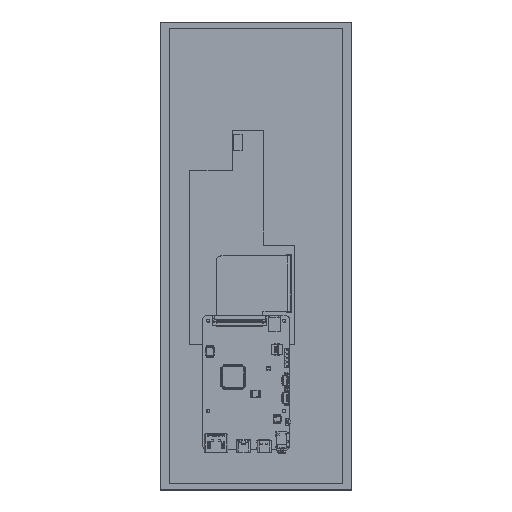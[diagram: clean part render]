
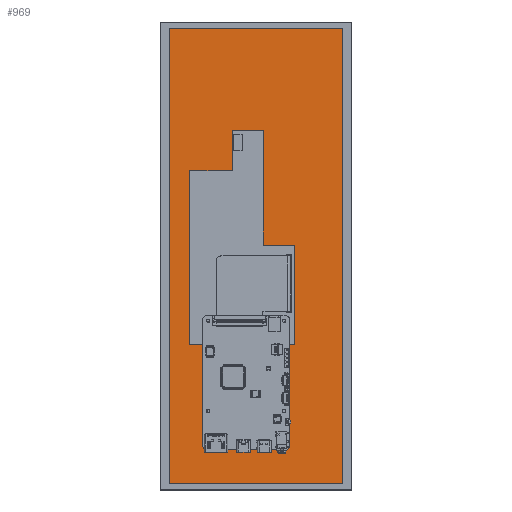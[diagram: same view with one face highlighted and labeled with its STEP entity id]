
A CAD part, top view. The second image highlights one B-rep face of the part: STEP entity #969.
In plain terms, the highlighted planar face has unit normal (0, 0, 1).
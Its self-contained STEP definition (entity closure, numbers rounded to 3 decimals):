
#165=DIRECTION('',(-1.,0.,0.));
#166=VECTOR('',#165,20.);
#167=CARTESIAN_POINT('',(24.825,7.,3.));
#168=LINE('',#167,#166);
#172=DIRECTION('',(0.,1.,0.));
#173=VECTOR('',#172,74.);
#174=CARTESIAN_POINT('',(4.825,7.,3.));
#175=LINE('',#174,#173);
#179=DIRECTION('',(-1.,0.,0.));
#180=VECTOR('',#179,20.);
#181=CARTESIAN_POINT('',(4.825,81.,3.));
#182=LINE('',#181,#180);
#186=DIRECTION('',(0.,-1.,0.));
#187=VECTOR('',#186,26.);
#188=CARTESIAN_POINT('',(-15.175,81.,3.));
#189=LINE('',#188,#187);
#193=DIRECTION('',(-1.,0.,0.));
#194=VECTOR('',#193,27.5);
#195=CARTESIAN_POINT('',(-15.175,55.,3.));
#196=LINE('',#195,#194);
#200=DIRECTION('',(0.,-1.,0.));
#201=VECTOR('',#200,112.);
#202=CARTESIAN_POINT('',(-42.675,55.,3.));
#203=LINE('',#202,#201);
#207=DIRECTION('',(1.,0.,0.));
#208=VECTOR('',#207,67.5);
#209=CARTESIAN_POINT('',(-42.675,-57.,3.));
#210=LINE('',#209,#208);
#214=DIRECTION('',(0.,1.,0.));
#215=VECTOR('',#214,64.);
#216=CARTESIAN_POINT('',(24.825,-57.,3.));
#217=LINE('',#216,#215);
#221=DIRECTION('',(0.,-1.,0.));
#222=VECTOR('',#221,293.2);
#223=CARTESIAN_POINT('',(55.675,146.6,3.));
#224=LINE('',#223,#222);
#228=DIRECTION('',(-1.,0.,0.));
#229=VECTOR('',#228,111.35);
#230=CARTESIAN_POINT('',(55.675,-146.6,3.));
#231=LINE('',#230,#229);
#235=DIRECTION('',(0.,1.,0.));
#236=VECTOR('',#235,293.2);
#237=CARTESIAN_POINT('',(-55.675,-146.6,3.));
#238=LINE('',#237,#236);
#242=DIRECTION('',(1.,0.,0.));
#243=VECTOR('',#242,111.35);
#244=CARTESIAN_POINT('',(-55.675,146.6,3.));
#245=LINE('',#244,#243);
#730=CARTESIAN_POINT('',(24.825,7.,3.));
#731=CARTESIAN_POINT('',(4.825,7.,3.));
#732=VERTEX_POINT('',#730);
#733=VERTEX_POINT('',#731);
#734=CARTESIAN_POINT('',(4.825,81.,3.));
#735=VERTEX_POINT('',#734);
#736=CARTESIAN_POINT('',(-15.175,81.,3.));
#737=VERTEX_POINT('',#736);
#738=CARTESIAN_POINT('',(-15.175,55.,3.));
#739=VERTEX_POINT('',#738);
#740=CARTESIAN_POINT('',(-42.675,55.,3.));
#741=VERTEX_POINT('',#740);
#742=CARTESIAN_POINT('',(-42.675,-57.,3.));
#743=VERTEX_POINT('',#742);
#744=CARTESIAN_POINT('',(24.825,-57.,3.));
#745=VERTEX_POINT('',#744);
#810=CARTESIAN_POINT('',(55.675,146.6,3.));
#811=CARTESIAN_POINT('',(55.675,-146.6,3.));
#812=VERTEX_POINT('',#810);
#813=VERTEX_POINT('',#811);
#814=CARTESIAN_POINT('',(-55.675,-146.6,3.));
#815=VERTEX_POINT('',#814);
#816=CARTESIAN_POINT('',(-55.675,146.6,3.));
#817=VERTEX_POINT('',#816);
#937=CARTESIAN_POINT('',(0.,0.,3.));
#938=DIRECTION('',(0.,0.,1.));
#939=DIRECTION('',(0.,-1.,0.));
#940=AXIS2_PLACEMENT_3D('',#937,#938,#939);
#941=PLANE('',#940);
#942=ORIENTED_EDGE('',*,*,#927,.T.);
#944=ORIENTED_EDGE('',*,*,#943,.T.);
#946=ORIENTED_EDGE('',*,*,#945,.T.);
#948=ORIENTED_EDGE('',*,*,#947,.T.);
#949=EDGE_LOOP('',(#942,#944,#946,#948));
#950=FACE_OUTER_BOUND('',#949,.F.);
#952=ORIENTED_EDGE('',*,*,#951,.T.);
#954=ORIENTED_EDGE('',*,*,#953,.T.);
#956=ORIENTED_EDGE('',*,*,#955,.T.);
#958=ORIENTED_EDGE('',*,*,#957,.T.);
#960=ORIENTED_EDGE('',*,*,#959,.T.);
#962=ORIENTED_EDGE('',*,*,#961,.T.);
#964=ORIENTED_EDGE('',*,*,#963,.T.);
#966=ORIENTED_EDGE('',*,*,#965,.T.);
#967=EDGE_LOOP('',(#952,#954,#956,#958,#960,#962,#964,#966));
#968=FACE_BOUND('',#967,.F.);
#969=ADVANCED_FACE('',(#950,#968),#941,.T.);
#927=EDGE_CURVE('',#812,#813,#224,.T.);
#943=EDGE_CURVE('',#813,#815,#231,.T.);
#945=EDGE_CURVE('',#815,#817,#238,.T.);
#947=EDGE_CURVE('',#817,#812,#245,.T.);
#951=EDGE_CURVE('',#732,#733,#168,.T.);
#953=EDGE_CURVE('',#733,#735,#175,.T.);
#955=EDGE_CURVE('',#735,#737,#182,.T.);
#957=EDGE_CURVE('',#737,#739,#189,.T.);
#959=EDGE_CURVE('',#739,#741,#196,.T.);
#961=EDGE_CURVE('',#741,#743,#203,.T.);
#963=EDGE_CURVE('',#743,#745,#210,.T.);
#965=EDGE_CURVE('',#745,#732,#217,.T.);
